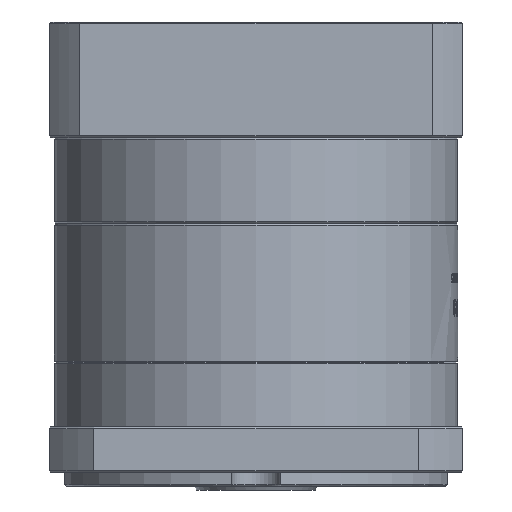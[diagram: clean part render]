
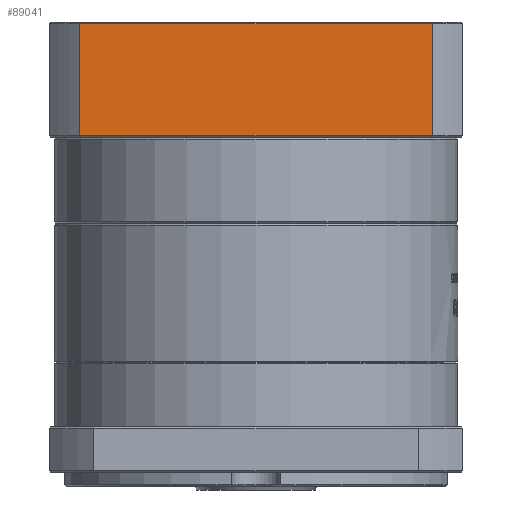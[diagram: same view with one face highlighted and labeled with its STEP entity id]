
A CAD part, front view. The second image highlights one B-rep face of the part: STEP entity #89041.
In plain terms, the highlighted planar face has unit normal (0, -1, 0).
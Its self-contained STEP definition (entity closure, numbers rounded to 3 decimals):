
#3221 = ORIENTED_EDGE ( 'NONE', *, *, #81862, .T. ) ;
#3592 = VERTEX_POINT ( 'NONE', #100613 ) ;
#5490 = DIRECTION ( 'NONE',  ( 0., 0., 1. ) ) ;
#8240 = EDGE_LOOP ( 'NONE', ( #37969, #61112, #3221, #93383 ) ) ;
#17673 = VERTEX_POINT ( 'NONE', #99202 ) ;
#17959 = LINE ( 'NONE', #31873, #64490 ) ;
#18624 = LINE ( 'NONE', #27353, #106217 ) ;
#24514 = VERTEX_POINT ( 'NONE', #94236 ) ;
#26551 = FACE_OUTER_BOUND ( 'NONE', #8240, .T. ) ;
#27331 = LINE ( 'NONE', #59580, #76525 ) ;
#27353 = CARTESIAN_POINT ( 'NONE',  ( 91.093, 57.278, -8.577 ) ) ;
#28891 = DIRECTION ( 'NONE',  ( 0., 1., 0. ) ) ;
#30415 = EDGE_CURVE ( 'NONE', #63648, #3592, #17959, .T. ) ;
#31873 = CARTESIAN_POINT ( 'NONE',  ( -9.411, 57.278, 23.923 ) ) ;
#33100 = CARTESIAN_POINT ( 'NONE',  ( -9.411, 57.278, -8.577 ) ) ;
#33110 = EDGE_CURVE ( 'NONE', #24514, #17673, #39656, .T. ) ;
#37969 = ORIENTED_EDGE ( 'NONE', *, *, #44663, .F. ) ;
#39656 = LINE ( 'NONE', #109559, #87358 ) ;
#43009 = DIRECTION ( 'NONE',  ( 1., 0., 0. ) ) ;
#44663 = EDGE_CURVE ( 'NONE', #3592, #24514, #27331, .T. ) ;
#54843 = CARTESIAN_POINT ( 'NONE',  ( 91.093, 57.278, 23.923 ) ) ;
#59580 = CARTESIAN_POINT ( 'NONE',  ( 91.093, 57.278, 23.423 ) ) ;
#61112 = ORIENTED_EDGE ( 'NONE', *, *, #30415, .F. ) ;
#63648 = VERTEX_POINT ( 'NONE', #33100 ) ;
#64365 = AXIS2_PLACEMENT_3D ( 'NONE', #54843, #28891, #88289 ) ;
#64490 = VECTOR ( 'NONE', #5490, 1000. ) ;
#70198 = DIRECTION ( 'NONE',  ( 0., 0., -1. ) ) ;
#76525 = VECTOR ( 'NONE', #103332, 1000. ) ;
#79723 = PLANE ( 'NONE',  #64365 ) ;
#81862 = EDGE_CURVE ( 'NONE', #63648, #17673, #18624, .T. ) ;
#87358 = VECTOR ( 'NONE', #70198, 1000. ) ;
#88289 = DIRECTION ( 'NONE',  ( -1., 0., 0. ) ) ;
#89041 = ADVANCED_FACE ( 'NONE', ( #26551 ), #79723, .F. ) ;
#93383 = ORIENTED_EDGE ( 'NONE', *, *, #33110, .F. ) ;
#94236 = CARTESIAN_POINT ( 'NONE',  ( 91.093, 57.278, 23.423 ) ) ;
#99202 = CARTESIAN_POINT ( 'NONE',  ( 91.093, 57.278, -8.577 ) ) ;
#100613 = CARTESIAN_POINT ( 'NONE',  ( -9.411, 57.278, 23.423 ) ) ;
#103332 = DIRECTION ( 'NONE',  ( 1., 0., 0. ) ) ;
#106217 = VECTOR ( 'NONE', #43009, 1000. ) ;
#109559 = CARTESIAN_POINT ( 'NONE',  ( 91.093, 57.278, 23.923 ) ) ;
